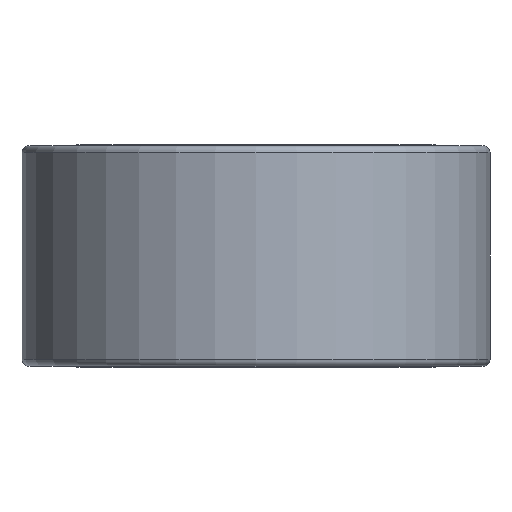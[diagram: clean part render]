
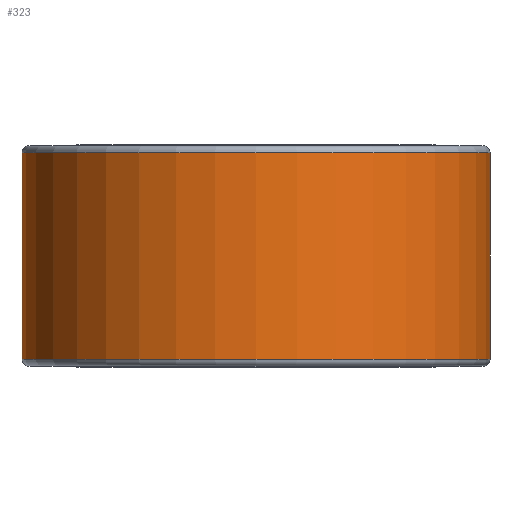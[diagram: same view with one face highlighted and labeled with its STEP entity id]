
A CAD part, front view. The second image highlights one B-rep face of the part: STEP entity #323.
In plain terms, the highlighted cylindrical face has radius 170 mm (diameter 340 mm), a partial arc.
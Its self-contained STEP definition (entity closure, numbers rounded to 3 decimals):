
#7 = VECTOR ( 'NONE', #186, 1000. ) ;
#8 = ORIENTED_EDGE ( 'NONE', *, *, #96, .T. ) ;
#19 = ORIENTED_EDGE ( 'NONE', *, *, #158, .T. ) ;
#55 = CARTESIAN_POINT ( 'NONE',  ( -170., 0., 155. ) ) ;
#85 = DIRECTION ( 'NONE',  ( 0., 0., -1. ) ) ;
#96 = EDGE_CURVE ( 'NONE', #373, #179, #168, .T. ) ;
#99 = AXIS2_PLACEMENT_3D ( 'NONE', #426, #556, #327 ) ;
#122 = LINE ( 'NONE', #511, #7 ) ;
#143 = CARTESIAN_POINT ( 'NONE',  ( 170., 0., 5. ) ) ;
#154 = AXIS2_PLACEMENT_3D ( 'NONE', #236, #85, #326 ) ;
#158 = EDGE_CURVE ( 'NONE', #435, #261, #491, .T. ) ;
#162 = ORIENTED_EDGE ( 'NONE', *, *, #211, .T. ) ;
#168 = CIRCLE ( 'NONE', #99, 170. ) ;
#179 = VERTEX_POINT ( 'NONE', #143 ) ;
#186 = DIRECTION ( 'NONE',  ( 0., 0., -1. ) ) ;
#211 = EDGE_CURVE ( 'NONE', #261, #373, #122, .T. ) ;
#236 = CARTESIAN_POINT ( 'NONE',  ( 0., 0., 160. ) ) ;
#256 = CARTESIAN_POINT ( 'NONE',  ( -170., 0., 5. ) ) ;
#261 = VERTEX_POINT ( 'NONE', #55 ) ;
#278 = CARTESIAN_POINT ( 'NONE',  ( 170., 0., 155. ) ) ;
#286 = AXIS2_PLACEMENT_3D ( 'NONE', #403, #478, #313 ) ;
#295 = CYLINDRICAL_SURFACE ( 'NONE', #154, 170. ) ;
#313 = DIRECTION ( 'NONE',  ( 1., 0., 0. ) ) ;
#315 = VECTOR ( 'NONE', #460, 1000. ) ;
#323 = ADVANCED_FACE ( 'NONE', ( #530 ), #295, .T. ) ;
#326 = DIRECTION ( 'NONE',  ( -1., 0., 0. ) ) ;
#327 = DIRECTION ( 'NONE',  ( 1., 0., 0. ) ) ;
#373 = VERTEX_POINT ( 'NONE', #256 ) ;
#403 = CARTESIAN_POINT ( 'NONE',  ( 0., 0., 155. ) ) ;
#411 = ORIENTED_EDGE ( 'NONE', *, *, #533, .F. ) ;
#412 = EDGE_LOOP ( 'NONE', ( #411, #19, #162, #8 ) ) ;
#426 = CARTESIAN_POINT ( 'NONE',  ( 0., 0., 5. ) ) ;
#427 = LINE ( 'NONE', #559, #315 ) ;
#435 = VERTEX_POINT ( 'NONE', #278 ) ;
#460 = DIRECTION ( 'NONE',  ( 0., 0., -1. ) ) ;
#478 = DIRECTION ( 'NONE',  ( 0., 0., -1. ) ) ;
#491 = CIRCLE ( 'NONE', #286, 170. ) ;
#511 = CARTESIAN_POINT ( 'NONE',  ( -170., 0., 160. ) ) ;
#530 = FACE_OUTER_BOUND ( 'NONE', #412, .T. ) ;
#533 = EDGE_CURVE ( 'NONE', #435, #179, #427, .T. ) ;
#556 = DIRECTION ( 'NONE',  ( 0., 0., 1. ) ) ;
#559 = CARTESIAN_POINT ( 'NONE',  ( 170., 0., 160. ) ) ;
